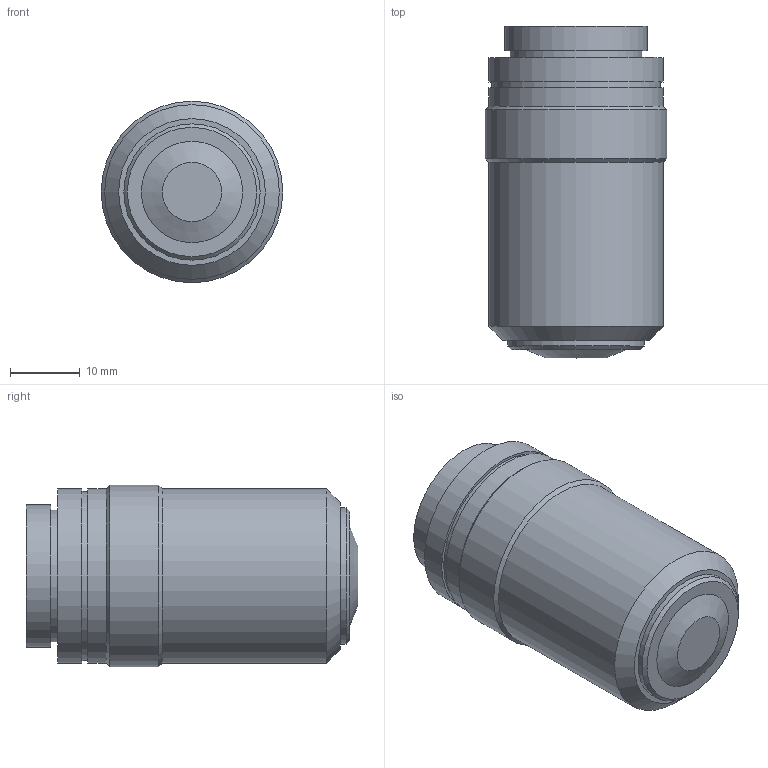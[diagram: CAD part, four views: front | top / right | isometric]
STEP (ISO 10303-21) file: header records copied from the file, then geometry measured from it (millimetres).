
FILE_DESCRIPTION((''),'2;1');
FILE_NAME('T:\Public\7_3次元データ\1図面ﾃﾞｰﾀ\7_素子\ＭＥオプティクス\長作動対物レンズ(EPL・EPLE)\ELPE\EPLE-100\EPL-100.stp','2009-04-22T09:40:45',('okegawa'),(''),'Autodesk Inventor 2008','Autodesk Inventor 2008','');
FILE_SCHEMA(('AUTOMOTIVE_DESIGN { 1 0 10303 214 1 1 1 1 }'));
Length unit declared in the file: millimetre
Products named in the file (1): EPL-100
Bounding box: 26 x 47.5 x 26 mm (x, y, z)
Volume: 21932.8 mm3; surface area: 4630 mm2
Topology: 1 solids, 1 shells, 21 faces, 33 edges, 20 vertices
Faces by surface type: plane 8, cylinder 8, cone 5
Full cylindrical faces by diameter (mm): 18.81 x1, 19.5 x1, 20.36 x1, 24.2 x1, 25 x3, 26 x1
Entity records: 440 total; most frequent: DIRECTION 84, CARTESIAN_POINT 62, AXIS2_PLACEMENT_3D 42, ORIENTED_EDGE 40, EDGE_LOOP 40, FACE_OUTER_BOUND 21, ADVANCED_FACE 21, VERTEX_POINT 20
